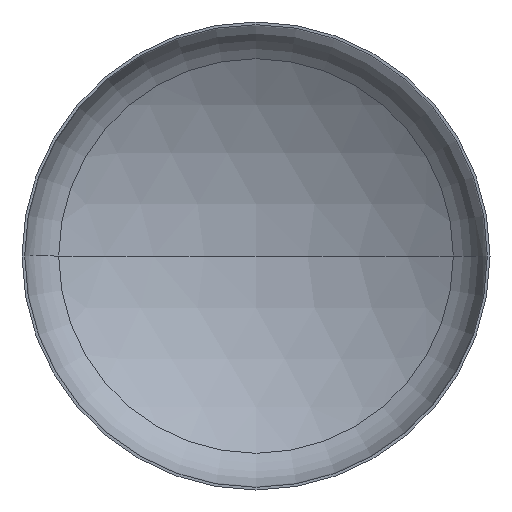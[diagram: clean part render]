
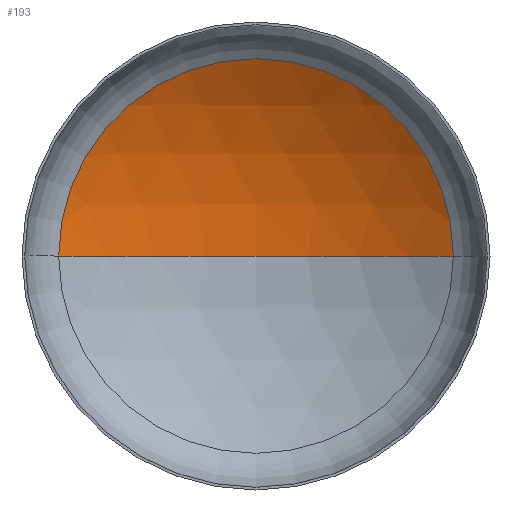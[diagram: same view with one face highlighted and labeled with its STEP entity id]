
A CAD part, front view. The second image highlights one B-rep face of the part: STEP entity #193.
In plain terms, the highlighted spherical face has radius 3200 mm.
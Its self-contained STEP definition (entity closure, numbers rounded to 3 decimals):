
#7 = DIRECTION ( 'NONE',  ( 1., 0., 0. ) ) ;
#17 = DIRECTION ( 'NONE',  ( -1., 0., 0. ) ) ;
#18 = DIRECTION ( 'NONE',  ( 0., 0., -1. ) ) ;
#22 = CIRCLE ( 'NONE', #40, 3200. ) ;
#23 = EDGE_LOOP ( 'NONE', ( #393, #179, #214 ) ) ;
#24 = CARTESIAN_POINT ( 'NONE',  ( 0., -2127.085, 0. ) ) ;
#27 = AXIS2_PLACEMENT_3D ( 'NONE', #235, #228, #30 ) ;
#29 = CARTESIAN_POINT ( 'NONE',  ( 1686.035, 592.711, 0. ) ) ;
#30 = DIRECTION ( 'NONE',  ( -1., 0., 0. ) ) ;
#37 = CARTESIAN_POINT ( 'NONE',  ( -1686.035, 592.711, 0. ) ) ;
#40 = AXIS2_PLACEMENT_3D ( 'NONE', #316, #98, #142 ) ;
#45 = AXIS2_PLACEMENT_3D ( 'NONE', #24, #18, #17 ) ;
#49 = AXIS2_PLACEMENT_3D ( 'NONE', #253, #409, #7 ) ;
#98 = DIRECTION ( 'NONE',  ( 0., 0., 1. ) ) ;
#121 = EDGE_CURVE ( 'NONE', #207, #275, #247, .T. ) ;
#125 = EDGE_CURVE ( 'NONE', #208, #207, #309, .T. ) ;
#126 = EDGE_CURVE ( 'NONE', #208, #275, #22, .T. ) ;
#142 = DIRECTION ( 'NONE',  ( 1., 0., 0. ) ) ;
#179 = ORIENTED_EDGE ( 'NONE', *, *, #125, .T. ) ;
#193 = ADVANCED_FACE ( 'NONE', ( #305 ), #297, .F. ) ;
#207 = VERTEX_POINT ( 'NONE', #29 ) ;
#208 = VERTEX_POINT ( 'NONE', #276 ) ;
#214 = ORIENTED_EDGE ( 'NONE', *, *, #121, .T. ) ;
#228 = DIRECTION ( 'NONE',  ( 0., 0., -1. ) ) ;
#235 = CARTESIAN_POINT ( 'NONE',  ( 0., -2127.085, 0. ) ) ;
#247 = CIRCLE ( 'NONE', #49, 1686.035 ) ;
#253 = CARTESIAN_POINT ( 'NONE',  ( 0., 592.711, 0. ) ) ;
#275 = VERTEX_POINT ( 'NONE', #37 ) ;
#276 = CARTESIAN_POINT ( 'NONE',  ( 0., 1072.915, 0. ) ) ;
#297 = SPHERICAL_SURFACE ( 'NONE', #27, 3200. ) ;
#305 = FACE_OUTER_BOUND ( 'NONE', #23, .T. ) ;
#309 = CIRCLE ( 'NONE', #45, 3200. ) ;
#316 = CARTESIAN_POINT ( 'NONE',  ( 0., -2127.085, 0. ) ) ;
#393 = ORIENTED_EDGE ( 'NONE', *, *, #126, .F. ) ;
#409 = DIRECTION ( 'NONE',  ( 0., -1., 0. ) ) ;
